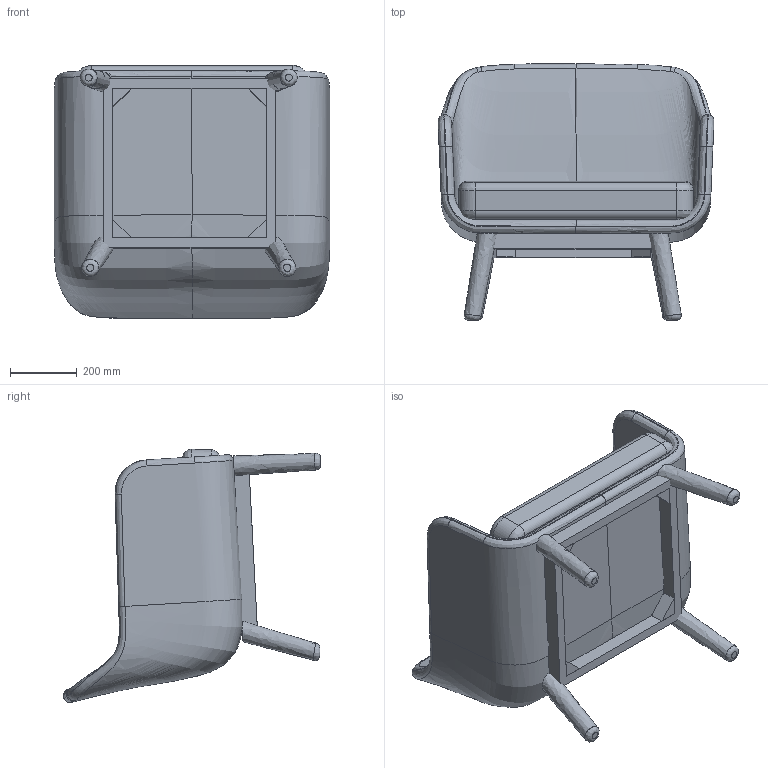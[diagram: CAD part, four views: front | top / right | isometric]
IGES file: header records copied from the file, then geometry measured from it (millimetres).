
Global section: file name: VincentSheppard_AlexLounge; native system: unknown; preprocessor: unknown; author: ict@vincentsheppard.com; organization: unknown; date: 20180606.162153; units: millimetre
Bounding box: 826.28 x 769.4 x 758.12 mm (x, y, z)
Volume: 94625835.7 mm3; surface area: 4020676.6 mm2
Topology: 11 solids, 11 shells, 132 faces, 300 edges, 190 vertices
Faces by surface type: bspline 132
